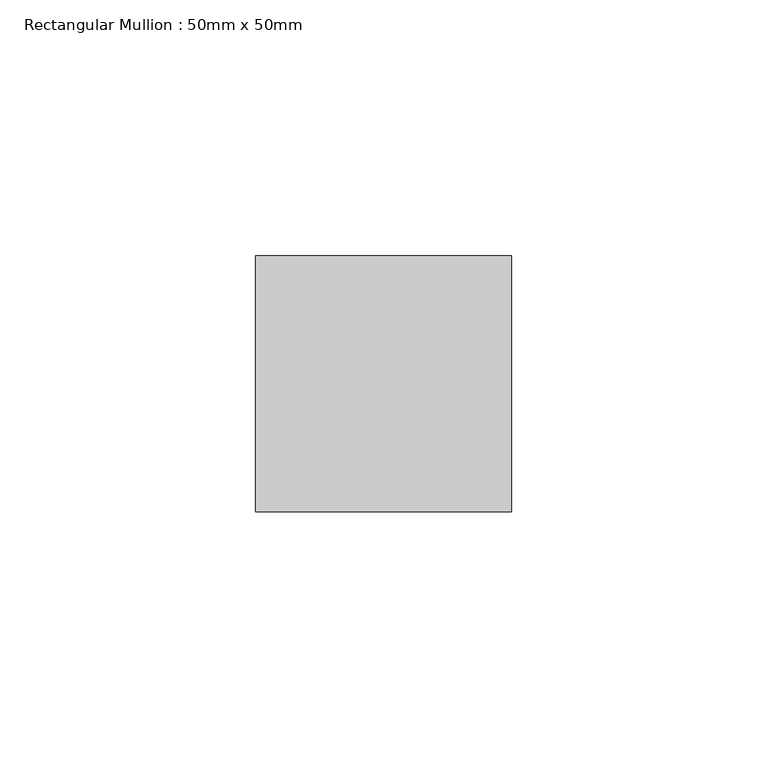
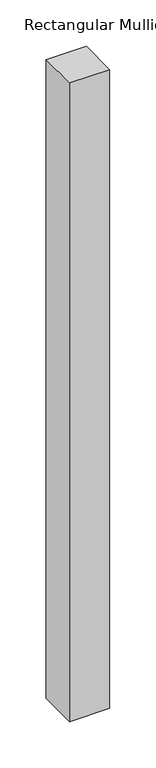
"""IFC4 building model written with IfcOpenShell, lengths in millimetres: member geometry, Rectangular Mullion : 50mm x 50mm."""

from ifc_helpers import new_model, si_unit, frame, origin, place, context, project, spatial, polyline, outline, extrude, source, transform, mapped, element, save


def rectangular_mullion_50mm_x_50mm_cf19bcf9(model_context):
    return source(origin(), model_context, "Body", "SweptSolid", [
        extrude(outline(polyline([(0.0, 25.0), (0.0, -25.0), (-50.0, -25.0), (-50.0, 25.0), (0.0, 25.0)])), frame((0.0, 0.0, -839.254534), z_axis=(0.0, 0.0, 1.0), x_axis=(1.0, 0.0, 0.0)), (0.0, 0.0, 1.0), 839.254534),
    ])


if __name__ == "__main__":
    model = new_model("IFC4")
    model_context = context("Model", 3, world=origin())
    ifc_project = project(units=[si_unit("LENGTHUNIT", "METRE", prefix="MILLI")], contexts=[model_context])
    site = spatial("IfcSite", under=ifc_project)
    building = spatial("IfcBuilding", under=site)
    placement = place(None, origin())
    rectangular_mullion_50mm_x_50mm_shape = rectangular_mullion_50mm_x_50mm_cf19bcf9(model_context)
    element("IfcMember", 1, ObjectType="Rectangular Mullion : 50mm x 50mm", at=placement, inside=building, context=model_context, shape_type="MappedRepresentation", body=[
        mapped(rectangular_mullion_50mm_x_50mm_shape, transform((0.0, 0.0, 0.0), x_axis=(1.0, 0.0, 0.0), y_axis=(0.0, 1.0, 0.0), z_axis=(0.0, 0.0, 1.0))),
    ])
    save(model, "model.ifc")
